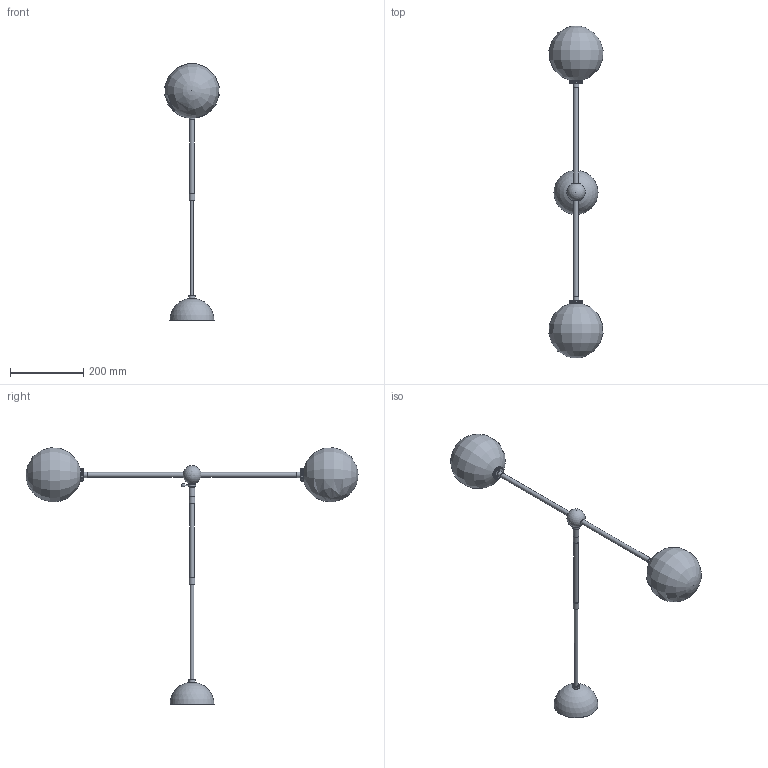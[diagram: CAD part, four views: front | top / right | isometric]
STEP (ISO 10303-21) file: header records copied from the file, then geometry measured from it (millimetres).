
FILE_DESCRIPTION(/* description */ (''),/* implementation_level */ '2;1');
FILE_NAME(/* name */ 'T:\B065 Balance 150 x 150 Pendant\Wydanie 2\B065 Balance 150 x 150.stp',/* time_stamp */ '2022-01-18T10:58:03+01:00',/* author */ ('Mariusz Awariusz'),/* organization */ (''),/* preprocessor_version */ 'ST-DEVELOPER v18.1',/* originating_system */ 'Autodesk Inventor 2022',/* authorisation */ '');
FILE_SCHEMA (('AUTOMOTIVE_DESIGN { 1 0 10303 214 3 1 1 }'));
Length unit declared in the file: millimetre
Products named in the file (1): B065 Balance 150 x 150 CE_v2_jako część
Bounding box: 147.33 x 904.62 x 698.66 mm (x, y, z)
Volume: 530309.1 mm3; surface area: 382473.3 mm2
Topology: 4 solids, 6 shells, 163 faces, 333 edges, 202 vertices
Faces by surface type: cylinder 58, plane 55, cone 36, sphere 6, bspline 4, torus 4
Full cylindrical faces by diameter (mm): 2.693 x6, 3 x13, 4 x6, 5.5 x6, 8.6 x1, 10 x4, 11.917 x2, 12.6 x1, 12.917 x1, 13 x4, 14 x1, 15 x2, 16 x3, 18 x1, 20 x1, 25.221 x2, 33 x2, 35 x2
Entity records: 4777 total; most frequent: CARTESIAN_POINT 1195, DIRECTION 827, ORIENTED_EDGE 654, AXIS2_PLACEMENT_3D 364, EDGE_CURVE 327, CIRCLE 204, EDGE_LOOP 203, VERTEX_POINT 202
